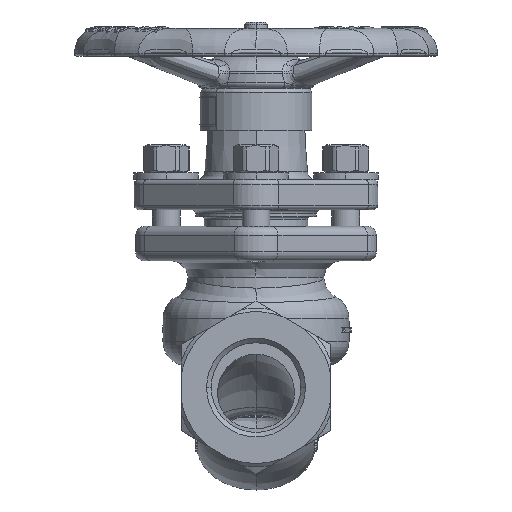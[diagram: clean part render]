
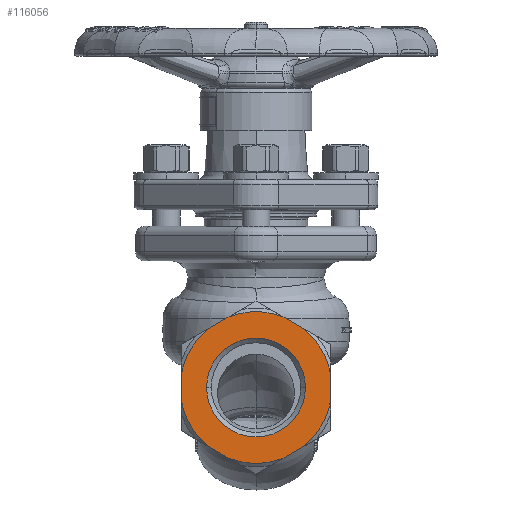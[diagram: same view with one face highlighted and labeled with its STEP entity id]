
A CAD part, left-side view. The second image highlights one B-rep face of the part: STEP entity #116056.
In plain terms, the highlighted planar face has unit normal (-1, 0, 0).
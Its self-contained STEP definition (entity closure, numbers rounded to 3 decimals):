
#31838=DIRECTION('',(0.,0.866,0.5));
#31839=VECTOR('',#31838,10.452);
#31840=CARTESIAN_POINT('',(-80.,-20.776,25.533));
#31841=LINE('',#31840,#31839);
#31846=CARTESIAN_POINT('',(-80.,0.,0.));
#31847=DIRECTION('',(1.,0.,0.));
#31848=DIRECTION('',(0.,-1.,0.));
#31849=AXIS2_PLACEMENT_3D('',#31846,#31847,#31848);
#31851=CARTESIAN_POINT('',(-80.,0.,0.));
#31852=DIRECTION('',(1.,0.,0.));
#31853=DIRECTION('',(0.,1.,0.));
#31854=AXIS2_PLACEMENT_3D('',#31851,#31852,#31853);
#31870=CARTESIAN_POINT('',(-80.,0.,0.));
#31871=DIRECTION('',(-1.,0.,0.));
#31872=DIRECTION('',(0.,0.356,-0.934));
#31873=AXIS2_PLACEMENT_3D('',#31870,#31871,#31872);
#31906=DIRECTION('',(0.,-0.866,0.5));
#31907=VECTOR('',#31906,10.452);
#31908=CARTESIAN_POINT('',(-80.,-11.724,-30.759));
#31909=LINE('',#31908,#31907);
#31914=CARTESIAN_POINT('',(-80.,0.,0.));
#31915=DIRECTION('',(-1.,0.,0.));
#31916=DIRECTION('',(0.,-0.631,-0.776));
#31917=AXIS2_PLACEMENT_3D('',#31914,#31915,#31916);
#31937=DIRECTION('',(0.,0.,1.));
#31938=VECTOR('',#31937,10.452);
#31939=CARTESIAN_POINT('',(-80.,-32.5,-5.226));
#31940=LINE('',#31939,#31938);
#31945=CARTESIAN_POINT('',(-80.,0.,0.));
#31946=DIRECTION('',(-1.,0.,0.));
#31947=DIRECTION('',(0.,-0.987,0.159));
#31948=AXIS2_PLACEMENT_3D('',#31945,#31946,#31947);
#32144=DIRECTION('',(0.,-0.866,-0.5));
#32145=VECTOR('',#32144,10.452);
#32146=CARTESIAN_POINT('',(-80.,20.776,-25.533));
#32147=LINE('',#32146,#32145);
#32191=DIRECTION('',(0.,0.,-1.));
#32192=VECTOR('',#32191,10.452);
#32193=CARTESIAN_POINT('',(-80.,32.5,5.226));
#32194=LINE('',#32193,#32192);
#32199=CARTESIAN_POINT('',(-80.,0.,0.));
#32200=DIRECTION('',(-1.,0.,0.));
#32201=DIRECTION('',(0.,0.987,-0.159));
#32202=AXIS2_PLACEMENT_3D('',#32199,#32200,#32201);
#32288=DIRECTION('',(0.,0.866,-0.5));
#32289=VECTOR('',#32288,10.452);
#32290=CARTESIAN_POINT('',(-80.,11.724,30.759));
#32291=LINE('',#32290,#32289);
#32296=CARTESIAN_POINT('',(-80.,0.,0.));
#32297=DIRECTION('',(-1.,0.,0.));
#32298=DIRECTION('',(0.,0.631,0.776));
#32299=AXIS2_PLACEMENT_3D('',#32296,#32297,#32298);
#32368=CARTESIAN_POINT('',(-80.,0.,0.));
#32369=DIRECTION('',(-1.,0.,0.));
#32370=DIRECTION('',(0.,-0.356,0.934));
#32371=AXIS2_PLACEMENT_3D('',#32368,#32369,#32370);
#64436=CARTESIAN_POINT('',(-80.,-20.776,-25.533));
#64437=CARTESIAN_POINT('',(-80.,-32.5,-5.226));
#64438=VERTEX_POINT('',#64436);
#64439=VERTEX_POINT('',#64437);
#64440=CARTESIAN_POINT('',(-80.,-32.5,5.226));
#64441=CARTESIAN_POINT('',(-80.,-20.776,25.533));
#64442=VERTEX_POINT('',#64440);
#64443=VERTEX_POINT('',#64441);
#64444=CARTESIAN_POINT('',(-80.,20.776,25.533));
#64445=CARTESIAN_POINT('',(-80.,32.5,5.226));
#64446=VERTEX_POINT('',#64444);
#64447=VERTEX_POINT('',#64445);
#64448=CARTESIAN_POINT('',(-80.,32.5,-5.226));
#64449=CARTESIAN_POINT('',(-80.,20.776,-25.533));
#64450=VERTEX_POINT('',#64448);
#64451=VERTEX_POINT('',#64449);
#64468=CARTESIAN_POINT('',(-80.,-11.724,-30.759));
#64469=VERTEX_POINT('',#64468);
#64472=CARTESIAN_POINT('',(-80.,-11.724,30.759));
#64473=VERTEX_POINT('',#64472);
#64476=CARTESIAN_POINT('',(-80.,11.724,30.759));
#64477=VERTEX_POINT('',#64476);
#64480=CARTESIAN_POINT('',(-80.,11.724,-30.759));
#64481=VERTEX_POINT('',#64480);
#64845=CARTESIAN_POINT('',(-80.,-21.476,0.));
#64846=CARTESIAN_POINT('',(-80.,21.476,0.));
#64847=VERTEX_POINT('',#64845);
#64848=VERTEX_POINT('',#64846);
#116020=CARTESIAN_POINT('',(-80.,0.,0.));
#116021=DIRECTION('',(-1.,0.,0.));
#116022=DIRECTION('',(0.,0.,1.));
#116023=AXIS2_PLACEMENT_3D('',#116020,#116021,#116022);
#116024=PLANE('',#116023);
#116026=ORIENTED_EDGE('',*,*,#116025,.F.);
#116028=ORIENTED_EDGE('',*,*,#116027,.F.);
#116030=ORIENTED_EDGE('',*,*,#116029,.F.);
#116032=ORIENTED_EDGE('',*,*,#116031,.F.);
#116034=ORIENTED_EDGE('',*,*,#116033,.F.);
#116036=ORIENTED_EDGE('',*,*,#116035,.F.);
#116038=ORIENTED_EDGE('',*,*,#116037,.F.);
#116039=ORIENTED_EDGE('',*,*,#115999,.F.);
#116041=ORIENTED_EDGE('',*,*,#116040,.F.);
#116043=ORIENTED_EDGE('',*,*,#116042,.F.);
#116045=ORIENTED_EDGE('',*,*,#116044,.F.);
#116047=ORIENTED_EDGE('',*,*,#116046,.F.);
#116048=EDGE_LOOP('',(#116026,#116028,#116030,#116032,#116034,#116036,#116038,
#116039,#116041,#116043,#116045,#116047));
#116049=FACE_OUTER_BOUND('',#116048,.F.);
#116051=ORIENTED_EDGE('',*,*,#116050,.F.);
#116053=ORIENTED_EDGE('',*,*,#116052,.F.);
#116054=EDGE_LOOP('',(#116051,#116053));
#116055=FACE_BOUND('',#116054,.F.);
#116056=ADVANCED_FACE('',(#116049,#116055),#116024,.T.);
#31850=CIRCLE('',#31849,21.476);
#31855=CIRCLE('',#31854,21.476);
#31874=CIRCLE('',#31873,32.918);
#31918=CIRCLE('',#31917,32.918);
#31949=CIRCLE('',#31948,32.918);
#32203=CIRCLE('',#32202,32.918);
#32300=CIRCLE('',#32299,32.918);
#32372=CIRCLE('',#32371,32.918);
#115999=EDGE_CURVE('',#64443,#64473,#31841,.T.);
#116025=EDGE_CURVE('',#64481,#64469,#31874,.T.);
#116027=EDGE_CURVE('',#64451,#64481,#32147,.T.);
#116029=EDGE_CURVE('',#64450,#64451,#32203,.T.);
#116031=EDGE_CURVE('',#64447,#64450,#32194,.T.);
#116033=EDGE_CURVE('',#64446,#64447,#32300,.T.);
#116035=EDGE_CURVE('',#64477,#64446,#32291,.T.);
#116037=EDGE_CURVE('',#64473,#64477,#32372,.T.);
#116040=EDGE_CURVE('',#64442,#64443,#31949,.T.);
#116042=EDGE_CURVE('',#64439,#64442,#31940,.T.);
#116044=EDGE_CURVE('',#64438,#64439,#31918,.T.);
#116046=EDGE_CURVE('',#64469,#64438,#31909,.T.);
#116050=EDGE_CURVE('',#64847,#64848,#31850,.T.);
#116052=EDGE_CURVE('',#64848,#64847,#31855,.T.);
